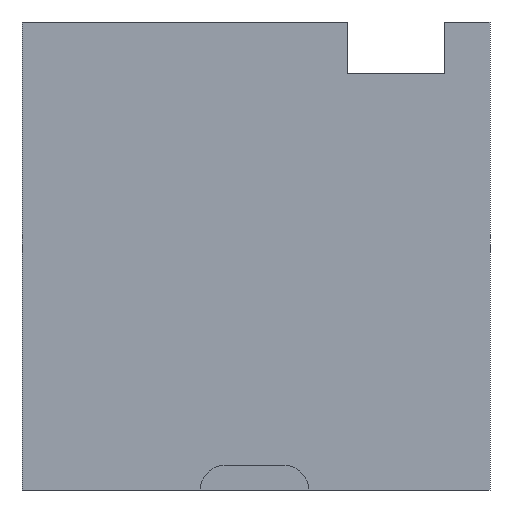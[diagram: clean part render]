
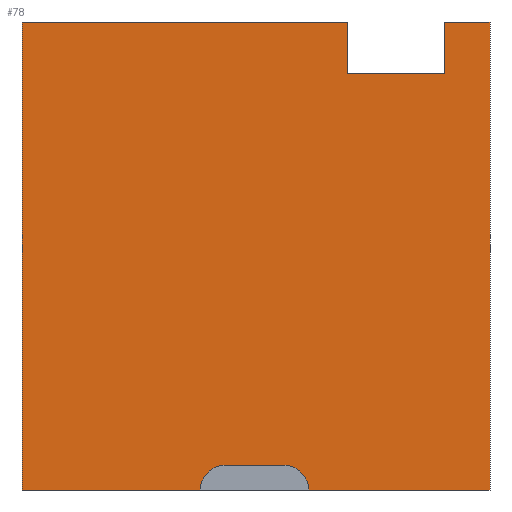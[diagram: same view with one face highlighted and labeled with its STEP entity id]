
A CAD part, left-side view. The second image highlights one B-rep face of the part: STEP entity #78.
In plain terms, the highlighted planar face has unit normal (-1, 0, 0).
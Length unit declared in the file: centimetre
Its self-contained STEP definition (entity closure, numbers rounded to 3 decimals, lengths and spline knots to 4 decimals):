
#11 = CIRCLE ( 'NONE', #163, 53.0468 ) ;
#13 = DIRECTION ( 'NONE',  ( 0., -1., 0. ) ) ;
#15 = DIRECTION ( 'NONE',  ( 0., -1., 0. ) ) ;
#16 = VERTEX_POINT ( 'NONE', #149 ) ;
#19 = DIRECTION ( 'NONE',  ( 0., -1., 0. ) ) ;
#30 = LINE ( 'NONE', #1105, #140 ) ;
#41 = VECTOR ( 'NONE', #15, 100. ) ;
#73 = DIRECTION ( 'NONE',  ( 0., 0., 1. ) ) ;
#77 = ORIENTED_EDGE ( 'NONE', *, *, #633, .F. ) ;
#78 = ADVANCED_FACE ( 'NONE', ( #574 ), #932, .F. ) ;
#97 = CARTESIAN_POINT ( 'NONE',  ( 0., 1000., 1000. ) ) ;
#115 = VERTEX_POINT ( 'NONE', #784 ) ;
#140 = VECTOR ( 'NONE', #205, 100. ) ;
#149 = CARTESIAN_POINT ( 'NONE',  ( 0., 619.0478, 0. ) ) ;
#151 = ORIENTED_EDGE ( 'NONE', *, *, #775, .T. ) ;
#163 = AXIS2_PLACEMENT_3D ( 'NONE', #835, #319, #843 ) ;
#182 = CARTESIAN_POINT ( 'NONE',  ( 0., 566.001, 53.0468 ) ) ;
#200 = CARTESIAN_POINT ( 'NONE',  ( 0., 440.4776, 53.0468 ) ) ;
#205 = DIRECTION ( 'NONE',  ( 0., 1., 0. ) ) ;
#207 = CARTESIAN_POINT ( 'NONE',  ( 0., 96.2915, 1000. ) ) ;
#215 = ORIENTED_EDGE ( 'NONE', *, *, #270, .T. ) ;
#239 = DIRECTION ( 'NONE',  ( 0., 1., 0. ) ) ;
#248 = CARTESIAN_POINT ( 'NONE',  ( 0., 566.001, 53.0468 ) ) ;
#249 = EDGE_CURVE ( 'NONE', #1011, #457, #1081, .T. ) ;
#263 = ORIENTED_EDGE ( 'NONE', *, *, #276, .F. ) ;
#270 = EDGE_CURVE ( 'NONE', #327, #115, #371, .T. ) ;
#276 = EDGE_CURVE ( 'NONE', #1144, #916, #553, .T. ) ;
#310 = EDGE_CURVE ( 'NONE', #792, #16, #611, .T. ) ;
#318 = VECTOR ( 'NONE', #239, 100. ) ;
#319 = DIRECTION ( 'NONE',  ( -1., 0., 0. ) ) ;
#322 = DIRECTION ( 'NONE',  ( 0., 0., -1. ) ) ;
#327 = VERTEX_POINT ( 'NONE', #1058 ) ;
#371 = LINE ( 'NONE', #991, #458 ) ;
#395 = ORIENTED_EDGE ( 'NONE', *, *, #503, .T. ) ;
#411 = DIRECTION ( 'NONE',  ( 0., 0., -1. ) ) ;
#419 = ORIENTED_EDGE ( 'NONE', *, *, #742, .T. ) ;
#434 = ORIENTED_EDGE ( 'NONE', *, *, #310, .F. ) ;
#444 = AXIS2_PLACEMENT_3D ( 'NONE', #490, #848, #322 ) ;
#457 = VERTEX_POINT ( 'NONE', #563 ) ;
#458 = VECTOR ( 'NONE', #636, 100. ) ;
#474 = ORIENTED_EDGE ( 'NONE', *, *, #534, .F. ) ;
#490 = CARTESIAN_POINT ( 'NONE',  ( 0., 1000., 1000. ) ) ;
#497 = CARTESIAN_POINT ( 'NONE',  ( 0., 0., 1000. ) ) ;
#503 = EDGE_CURVE ( 'NONE', #1144, #560, #944, .T. ) ;
#524 = VECTOR ( 'NONE', #411, 100. ) ;
#525 = LINE ( 'NONE', #530, #537 ) ;
#530 = CARTESIAN_POINT ( 'NONE',  ( 0., 304.4744, 889.8912 ) ) ;
#534 = EDGE_CURVE ( 'NONE', #599, #115, #667, .T. ) ;
#537 = VECTOR ( 'NONE', #73, 100. ) ;
#542 = EDGE_CURVE ( 'NONE', #327, #1028, #11, .T. ) ;
#543 = CARTESIAN_POINT ( 'NONE',  ( 0., 96.2915, 889.8912 ) ) ;
#547 = VECTOR ( 'NONE', #19, 100. ) ;
#553 = LINE ( 'NONE', #97, #41 ) ;
#560 = VERTEX_POINT ( 'NONE', #772 ) ;
#563 = CARTESIAN_POINT ( 'NONE',  ( 0., 96.2915, 889.8912 ) ) ;
#568 = CARTESIAN_POINT ( 'NONE',  ( 0., 304.4744, 1000. ) ) ;
#574 = FACE_OUTER_BOUND ( 'NONE', #815, .T. ) ;
#583 = CARTESIAN_POINT ( 'NONE',  ( 0., 1000., 1000. ) ) ;
#599 = VERTEX_POINT ( 'NONE', #497 ) ;
#605 = CARTESIAN_POINT ( 'NONE',  ( 0., 566.001, 0. ) ) ;
#607 = LINE ( 'NONE', #248, #318 ) ;
#611 = CIRCLE ( 'NONE', #1113, 53.0468 ) ;
#633 = EDGE_CURVE ( 'NONE', #1028, #792, #607, .T. ) ;
#636 = DIRECTION ( 'NONE',  ( 0., -1., 0. ) ) ;
#638 = LINE ( 'NONE', #647, #740 ) ;
#647 = CARTESIAN_POINT ( 'NONE',  ( 0., 1000., 0. ) ) ;
#651 = LINE ( 'NONE', #583, #547 ) ;
#667 = LINE ( 'NONE', #673, #524 ) ;
#673 = CARTESIAN_POINT ( 'NONE',  ( 0., 0., 1000. ) ) ;
#703 = VECTOR ( 'NONE', #900, 100. ) ;
#740 = VECTOR ( 'NONE', #13, 100. ) ;
#742 = EDGE_CURVE ( 'NONE', #951, #916, #525, .T. ) ;
#772 = CARTESIAN_POINT ( 'NONE',  ( 0., 1000., 0. ) ) ;
#775 = EDGE_CURVE ( 'NONE', #560, #16, #638, .T. ) ;
#784 = CARTESIAN_POINT ( 'NONE',  ( 0., 0., 0. ) ) ;
#786 = CARTESIAN_POINT ( 'NONE',  ( 0., 1000., 1000. ) ) ;
#788 = DIRECTION ( 'NONE',  ( 0., 0., -1. ) ) ;
#792 = VERTEX_POINT ( 'NONE', #182 ) ;
#815 = EDGE_LOOP ( 'NONE', ( #1148, #945, #1123, #419, #263, #395, #151, #434, #77, #999, #215, #474 ) ) ;
#835 = CARTESIAN_POINT ( 'NONE',  ( 0., 440.4776, 0. ) ) ;
#842 = CARTESIAN_POINT ( 'NONE',  ( 0., 304.4744, 889.8912 ) ) ;
#843 = DIRECTION ( 'NONE',  ( 0., 0., -1. ) ) ;
#848 = DIRECTION ( 'NONE',  ( 1., 0., 0. ) ) ;
#900 = DIRECTION ( 'NONE',  ( 0., 0., -1. ) ) ;
#916 = VERTEX_POINT ( 'NONE', #568 ) ;
#927 = DIRECTION ( 'NONE',  ( 0., 0., -1. ) ) ;
#932 = PLANE ( 'NONE',  #444 ) ;
#934 = VECTOR ( 'NONE', #927, 100. ) ;
#944 = LINE ( 'NONE', #1031, #934 ) ;
#945 = ORIENTED_EDGE ( 'NONE', *, *, #249, .T. ) ;
#948 = EDGE_CURVE ( 'NONE', #457, #951, #30, .T. ) ;
#951 = VERTEX_POINT ( 'NONE', #842 ) ;
#980 = DIRECTION ( 'NONE',  ( -1., 0., 0. ) ) ;
#991 = CARTESIAN_POINT ( 'NONE',  ( 0., 1000., 0. ) ) ;
#999 = ORIENTED_EDGE ( 'NONE', *, *, #542, .F. ) ;
#1011 = VERTEX_POINT ( 'NONE', #207 ) ;
#1028 = VERTEX_POINT ( 'NONE', #200 ) ;
#1031 = CARTESIAN_POINT ( 'NONE',  ( 0., 1000., 1000. ) ) ;
#1049 = EDGE_CURVE ( 'NONE', #1011, #599, #651, .T. ) ;
#1058 = CARTESIAN_POINT ( 'NONE',  ( 0., 387.4308, 0. ) ) ;
#1081 = LINE ( 'NONE', #543, #703 ) ;
#1105 = CARTESIAN_POINT ( 'NONE',  ( 0., 96.2915, 889.8912 ) ) ;
#1113 = AXIS2_PLACEMENT_3D ( 'NONE', #605, #980, #788 ) ;
#1123 = ORIENTED_EDGE ( 'NONE', *, *, #948, .T. ) ;
#1144 = VERTEX_POINT ( 'NONE', #786 ) ;
#1148 = ORIENTED_EDGE ( 'NONE', *, *, #1049, .F. ) ;
